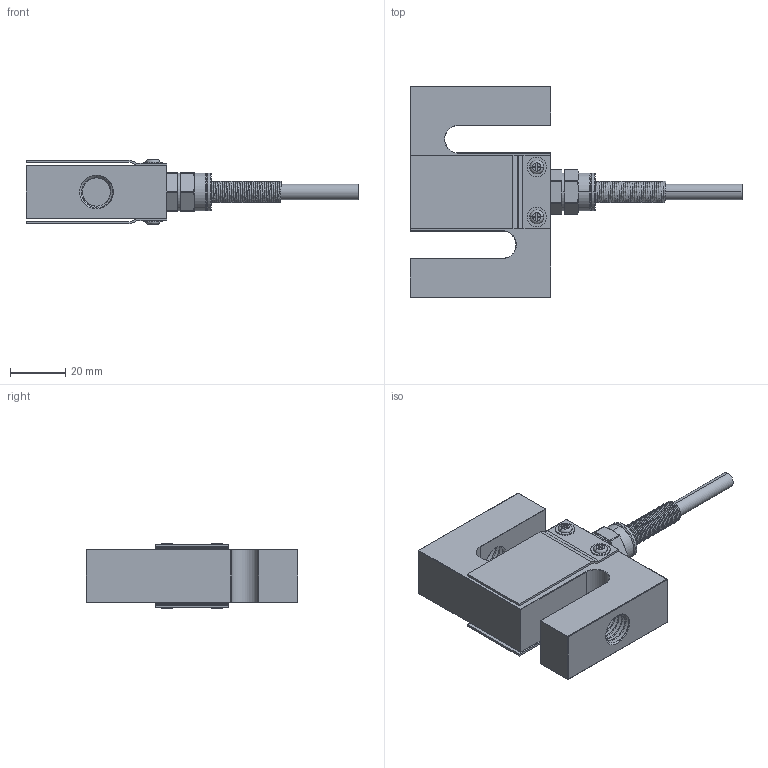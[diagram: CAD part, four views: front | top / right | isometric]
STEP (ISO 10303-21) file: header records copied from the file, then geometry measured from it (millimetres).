
FILE_DESCRIPTION (( 'STEP AP203' ), '1' );
FILE_NAME ('LCS10.STEP', '2024-07-16T04:41:38', ( '' ), ( '' ), 'SwSTEP 2.0', 'SolidWorks 2019', '' );
FILE_SCHEMA (( 'CONFIG_CONTROL_DESIGN' ));
Length unit declared in the file: millimetre
Products named in the file (1): LCS10
Bounding box: 119.8 x 76.2 x 23.4 mm (x, y, z)
Volume: 63173.3 mm3; surface area: 23328.9 mm2
Topology: 1 solids, 1 shells, 274 faces, 679 edges, 425 vertices
Faces by surface type: plane 159, cylinder 81, torus 14, cone 12, bspline 8
Entity records: 23398 total; most frequent: CARTESIAN_POINT 16970, ORIENTED_EDGE 1358, DIRECTION 1262, EDGE_CURVE 679, LINE 438, VECTOR 438, VERTEX_POINT 425, AXIS2_PLACEMENT_3D 412
